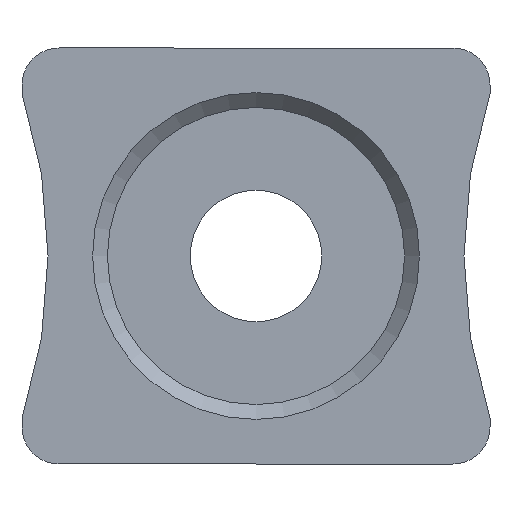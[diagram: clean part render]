
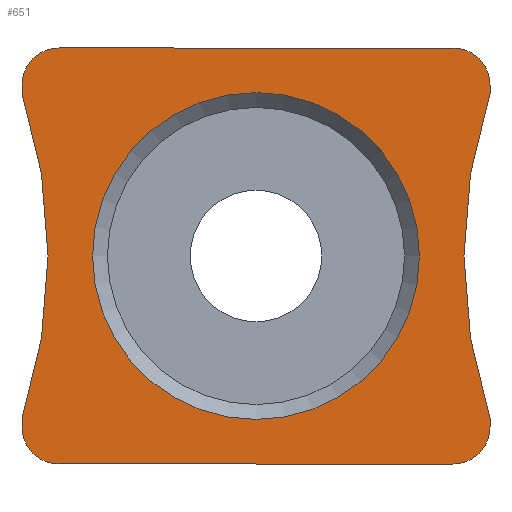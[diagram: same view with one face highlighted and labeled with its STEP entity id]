
A CAD part, left-side view. The second image highlights one B-rep face of the part: STEP entity #651.
In plain terms, the highlighted planar face has unit normal (-1, 0, 0).
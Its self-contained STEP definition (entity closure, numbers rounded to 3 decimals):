
#5 = VERTEX_POINT ( 'NONE', #583 ) ;
#16 = ORIENTED_EDGE ( 'NONE', *, *, #393, .T. ) ;
#36 = CIRCLE ( 'NONE', #1088, 2.2 ) ;
#48 = EDGE_CURVE ( 'NONE', #829, #532, #1001, .T. ) ;
#66 = DIRECTION ( 'NONE',  ( -1., 0., 0. ) ) ;
#74 = CARTESIAN_POINT ( 'NONE',  ( 0., 3.15, 2.8 ) ) ;
#75 = DIRECTION ( 'NONE',  ( -1., 0., 0. ) ) ;
#80 = VECTOR ( 'NONE', #412, 1000. ) ;
#93 = DIRECTION ( 'NONE',  ( -1., 0., 0. ) ) ;
#113 = VERTEX_POINT ( 'NONE', #1038 ) ;
#123 = FACE_OUTER_BOUND ( 'NONE', #329, .T. ) ;
#127 = EDGE_LOOP ( 'NONE', ( #1075 ) ) ;
#135 = CARTESIAN_POINT ( 'NONE',  ( 0., -3.15, 2.186 ) ) ;
#139 = CARTESIAN_POINT ( 'NONE',  ( 0., 3.15, 2.186 ) ) ;
#147 = LINE ( 'NONE', #723, #581 ) ;
#169 = DIRECTION ( 'NONE',  ( 0., 0., -1. ) ) ;
#170 = EDGE_CURVE ( 'NONE', #216, #532, #691, .T. ) ;
#206 = ORIENTED_EDGE ( 'NONE', *, *, #983, .F. ) ;
#216 = VERTEX_POINT ( 'NONE', #718 ) ;
#234 = FACE_BOUND ( 'NONE', #127, .T. ) ;
#248 = EDGE_CURVE ( 'NONE', #418, #418, #36, .T. ) ;
#265 = AXIS2_PLACEMENT_3D ( 'NONE', #685, #93, #169 ) ;
#268 = CARTESIAN_POINT ( 'NONE',  ( 0., 0., 0. ) ) ;
#276 = DIRECTION ( 'NONE',  ( 0., 1., 0. ) ) ;
#285 = CARTESIAN_POINT ( 'NONE',  ( 0., -2.65, 2.8 ) ) ;
#289 = EDGE_CURVE ( 'NONE', #216, #649, #147, .T. ) ;
#327 = CARTESIAN_POINT ( 'NONE',  ( 0., -9.8, 0. ) ) ;
#329 = EDGE_LOOP ( 'NONE', ( #379, #707, #643, #564, #1000, #666, #859, #942, #1098, #16, #206, #890 ) ) ;
#372 = AXIS2_PLACEMENT_3D ( 'NONE', #524, #540, #1059 ) ;
#379 = ORIENTED_EDGE ( 'NONE', *, *, #289, .F. ) ;
#387 = AXIS2_PLACEMENT_3D ( 'NONE', #327, #66, #411 ) ;
#392 = CARTESIAN_POINT ( 'NONE',  ( 0., 2.65, -2.3 ) ) ;
#393 = EDGE_CURVE ( 'NONE', #113, #505, #900, .T. ) ;
#401 = LINE ( 'NONE', #648, #639 ) ;
#411 = DIRECTION ( 'NONE',  ( 0., 0., 1. ) ) ;
#412 = DIRECTION ( 'NONE',  ( 0., -1., 0. ) ) ;
#418 = VERTEX_POINT ( 'NONE', #764 ) ;
#426 = EDGE_CURVE ( 'NONE', #681, #712, #883, .T. ) ;
#450 = DIRECTION ( 'NONE',  ( 0., 0., -1. ) ) ;
#458 = PLANE ( 'NONE',  #674 ) ;
#460 = VERTEX_POINT ( 'NONE', #139 ) ;
#465 = EDGE_CURVE ( 'NONE', #681, #467, #644, .T. ) ;
#466 = CARTESIAN_POINT ( 'NONE',  ( 0., 3.15, -2.8 ) ) ;
#467 = VERTEX_POINT ( 'NONE', #823 ) ;
#479 = EDGE_CURVE ( 'NONE', #460, #722, #993, .T. ) ;
#489 = DIRECTION ( 'NONE',  ( 0., 0., -1. ) ) ;
#491 = CARTESIAN_POINT ( 'NONE',  ( 0., 3.15, 2.3 ) ) ;
#500 = DIRECTION ( 'NONE',  ( 0., 0., -1. ) ) ;
#505 = VERTEX_POINT ( 'NONE', #590 ) ;
#516 = LINE ( 'NONE', #466, #758 ) ;
#524 = CARTESIAN_POINT ( 'NONE',  ( 0., -2.65, -2.3 ) ) ;
#528 = CIRCLE ( 'NONE', #387, 7. ) ;
#532 = VERTEX_POINT ( 'NONE', #285 ) ;
#540 = DIRECTION ( 'NONE',  ( -1., 0., 0. ) ) ;
#564 = ORIENTED_EDGE ( 'NONE', *, *, #1068, .T. ) ;
#572 = CARTESIAN_POINT ( 'NONE',  ( 0., 0., 0. ) ) ;
#576 = DIRECTION ( 'NONE',  ( -1., 0., 0. ) ) ;
#581 = VECTOR ( 'NONE', #1066, 1000. ) ;
#583 = CARTESIAN_POINT ( 'NONE',  ( 0., -3.15, -2.186 ) ) ;
#586 = CARTESIAN_POINT ( 'NONE',  ( 0., 3.15, -2.3 ) ) ;
#590 = CARTESIAN_POINT ( 'NONE',  ( 0., -3.15, -2.3 ) ) ;
#591 = DIRECTION ( 'NONE',  ( 1., 0., 0. ) ) ;
#639 = VECTOR ( 'NONE', #489, 1000. ) ;
#643 = ORIENTED_EDGE ( 'NONE', *, *, #48, .F. ) ;
#644 = LINE ( 'NONE', #653, #938 ) ;
#648 = CARTESIAN_POINT ( 'NONE',  ( 0., -3.15, 2.8 ) ) ;
#649 = VERTEX_POINT ( 'NONE', #135 ) ;
#651 = ADVANCED_FACE ( 'NONE', ( #234, #123 ), #458, .F. ) ;
#652 = CARTESIAN_POINT ( 'NONE',  ( 0., 9.8, 0. ) ) ;
#653 = CARTESIAN_POINT ( 'NONE',  ( 0., 3.15, 2.8 ) ) ;
#664 = EDGE_CURVE ( 'NONE', #649, #5, #528, .T. ) ;
#666 = ORIENTED_EDGE ( 'NONE', *, *, #1060, .F. ) ;
#668 = DIRECTION ( 'NONE',  ( -1., 0., 0. ) ) ;
#672 = AXIS2_PLACEMENT_3D ( 'NONE', #392, #576, #894 ) ;
#674 = AXIS2_PLACEMENT_3D ( 'NONE', #572, #591, #743 ) ;
#681 = VERTEX_POINT ( 'NONE', #586 ) ;
#685 = CARTESIAN_POINT ( 'NONE',  ( 0., 2.65, 2.3 ) ) ;
#691 = CIRCLE ( 'NONE', #937, 0.5 ) ;
#699 = CARTESIAN_POINT ( 'NONE',  ( 0., 2.65, 2.8 ) ) ;
#707 = ORIENTED_EDGE ( 'NONE', *, *, #170, .T. ) ;
#712 = VERTEX_POINT ( 'NONE', #840 ) ;
#718 = CARTESIAN_POINT ( 'NONE',  ( 0., -3.15, 2.3 ) ) ;
#722 = VERTEX_POINT ( 'NONE', #491 ) ;
#723 = CARTESIAN_POINT ( 'NONE',  ( 0., -3.15, 2.8 ) ) ;
#731 = CIRCLE ( 'NONE', #265, 0.5 ) ;
#741 = DIRECTION ( 'NONE',  ( 0., 0., 1. ) ) ;
#743 = DIRECTION ( 'NONE',  ( 0., 0., -1. ) ) ;
#758 = VECTOR ( 'NONE', #276, 1000. ) ;
#764 = CARTESIAN_POINT ( 'NONE',  ( 0., 0., -2.2 ) ) ;
#768 = DIRECTION ( 'NONE',  ( 0., 0., 1. ) ) ;
#782 = AXIS2_PLACEMENT_3D ( 'NONE', #652, #75, #768 ) ;
#806 = EDGE_CURVE ( 'NONE', #113, #712, #516, .T. ) ;
#823 = CARTESIAN_POINT ( 'NONE',  ( 0., 3.15, -2.186 ) ) ;
#829 = VERTEX_POINT ( 'NONE', #699 ) ;
#840 = CARTESIAN_POINT ( 'NONE',  ( 0., 2.65, -2.8 ) ) ;
#842 = VECTOR ( 'NONE', #741, 1000. ) ;
#859 = ORIENTED_EDGE ( 'NONE', *, *, #465, .F. ) ;
#883 = CIRCLE ( 'NONE', #672, 0.5 ) ;
#885 = CIRCLE ( 'NONE', #782, 7. ) ;
#890 = ORIENTED_EDGE ( 'NONE', *, *, #664, .F. ) ;
#894 = DIRECTION ( 'NONE',  ( 0., 0., -1. ) ) ;
#900 = CIRCLE ( 'NONE', #372, 0.5 ) ;
#908 = CARTESIAN_POINT ( 'NONE',  ( 0., 3.15, 2.8 ) ) ;
#913 = DIRECTION ( 'NONE',  ( 0., 0., 1. ) ) ;
#937 = AXIS2_PLACEMENT_3D ( 'NONE', #1099, #668, #500 ) ;
#938 = VECTOR ( 'NONE', #913, 1000. ) ;
#942 = ORIENTED_EDGE ( 'NONE', *, *, #426, .T. ) ;
#948 = DIRECTION ( 'NONE',  ( 1., 0., 0. ) ) ;
#983 = EDGE_CURVE ( 'NONE', #5, #505, #401, .T. ) ;
#993 = LINE ( 'NONE', #908, #842 ) ;
#1000 = ORIENTED_EDGE ( 'NONE', *, *, #479, .F. ) ;
#1001 = LINE ( 'NONE', #74, #80 ) ;
#1038 = CARTESIAN_POINT ( 'NONE',  ( 0., -2.65, -2.8 ) ) ;
#1059 = DIRECTION ( 'NONE',  ( 0., 0., -1. ) ) ;
#1060 = EDGE_CURVE ( 'NONE', #467, #460, #885, .T. ) ;
#1066 = DIRECTION ( 'NONE',  ( 0., 0., -1. ) ) ;
#1068 = EDGE_CURVE ( 'NONE', #829, #722, #731, .T. ) ;
#1075 = ORIENTED_EDGE ( 'NONE', *, *, #248, .T. ) ;
#1088 = AXIS2_PLACEMENT_3D ( 'NONE', #268, #948, #450 ) ;
#1098 = ORIENTED_EDGE ( 'NONE', *, *, #806, .F. ) ;
#1099 = CARTESIAN_POINT ( 'NONE',  ( 0., -2.65, 2.3 ) ) ;
